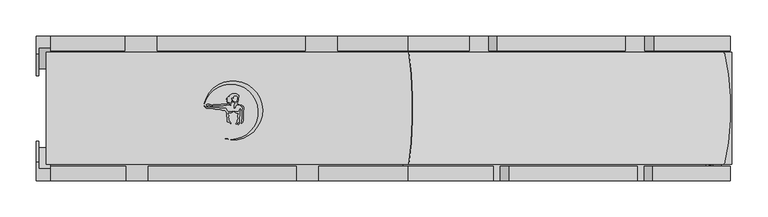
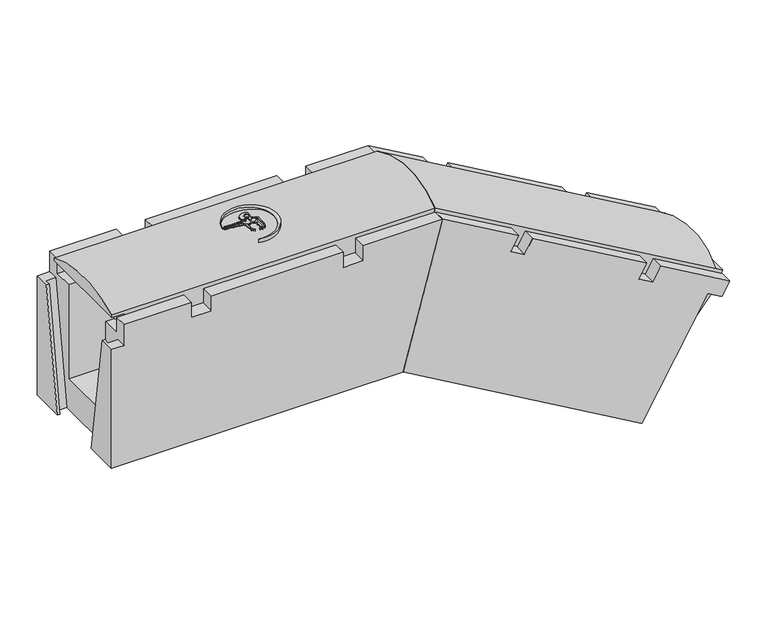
"""IFC4 building model written with IfcOpenShell, lengths in millimetres: cable carrier fitting geometry, Evotray type 1 vertical bend down : Evotray type 1 vertical bend down."""

import ifcopenshell
import ifcopenshell.guid

model = None  # the IFC model being written
_history = None  # IfcOwnerHistory: only IFC2X3 demands one
_inside = {}  # id of a spatial element -> (the spatial element, [elements in it])
_under = {}  # id of a project, library or spatial element -> (it, [spatial elements below it])
_declared = {}  # id of a project -> (the project, [libraries it declares])
_typed = {}  # id of a type object -> (the type object, [elements of that type])
_made_of = {}  # id of a material, layer set ... -> (it, [elements and type objects made of it])


def new_model(schema):
    """Start an empty IFC model of exactly this schema.

    Asked for "IFC4X3", IfcOpenShell would pick the latest addendum, in which some entities
    have other attributes; the version numbers below select the first issue.
    IFC2X3 requires an IfcOwnerHistory on every rooted entity: one is made here for all.
    """
    global model, _history
    if schema == "IFC4X3":
        model = ifcopenshell.file(schema_version=(4, 3, 0, 0))
    else:
        model = ifcopenshell.file(schema=schema)
    _inside.clear()
    _under.clear()
    _declared.clear()
    _typed.clear()
    _made_of.clear()
    _history = None
    if model.schema == "IFC2X3":
        org = make("IfcOrganization", Name="unknown")
        user = make(
            "IfcPersonAndOrganization",
            ThePerson=make("IfcPerson", FamilyName="unknown"),
            TheOrganization=org,
        )
        app = make(
            "IfcApplication",
            ApplicationDeveloper=org,
            Version="unknown",
            ApplicationFullName="unknown",
            ApplicationIdentifier="unknown",
        )
        _history = make(
            "IfcOwnerHistory",
            OwningUser=user,
            OwningApplication=app,
            ChangeAction="ADDED",
            CreationDate=0,
        )
    return model


def make(cls, **values):
    """One entity of the class cls with the attributes given. An attribute that is None is left unset."""
    return model.create_entity(
        cls, **{name: value for name, value in values.items() if value is not None}
    )


def rooted(cls, **values):
    """An entity with a GlobalId (a new one), such as an element, a storey or a relation."""
    return make(cls, GlobalId=ifcopenshell.guid.new(), OwnerHistory=_history, **values)


def si_unit(unit_type, name, prefix=None):
    """IfcSIUnit, for example si_unit("LENGTHUNIT", "METRE", prefix="MILLI")."""
    return make("IfcSIUnit", UnitType=unit_type, Prefix=prefix, Name=name)


def assignment(units):
    """IfcUnitAssignment: the units of a project."""
    return None if units is None else make("IfcUnitAssignment", Units=units)


def point(xyz):
    """IfcCartesianPoint."""
    return None if xyz is None else make("IfcCartesianPoint", Coordinates=xyz)


def direction(xyz):
    """IfcDirection."""
    return None if xyz is None else make("IfcDirection", DirectionRatios=xyz)


def frame(location, z_axis=None, x_axis=None):
    """IfcAxis2Placement3D, a coordinate frame: its origin and axes. An axis left out is left unset."""
    return make(
        "IfcAxis2Placement3D",
        Location=point(location),
        Axis=direction(z_axis),
        RefDirection=direction(x_axis),
    )


def frame_2d(location, x_axis=None):
    """IfcAxis2Placement2D, a coordinate frame in the plane: its origin and x axis."""
    return make(
        "IfcAxis2Placement2D", Location=point(location), RefDirection=direction(x_axis)
    )


def origin():
    """The frame at (0, 0, 0) with its axes left unset."""
    return frame((0.0, 0.0, 0.0))


def place(relative_to, where):
    """IfcLocalPlacement: puts the frame where relative to a parent placement (None: the world)."""
    return make(
        "IfcLocalPlacement", PlacementRelTo=relative_to, RelativePlacement=where
    )


def context(
    kind, dimensions, precision=None, world=None, true_north=None, identifier=None
):
    """IfcGeometricRepresentationContext, for example the 3D "Model" context."""
    return make(
        "IfcGeometricRepresentationContext",
        ContextIdentifier=identifier,
        ContextType=kind,
        CoordinateSpaceDimension=dimensions,
        Precision=precision,
        WorldCoordinateSystem=world,
        TrueNorth=true_north,
    )


def project(units=None, contexts=None):
    """IfcProject with its units and contexts."""
    return rooted(
        "IfcProject",
        Name="project",
        RepresentationContexts=contexts,
        UnitsInContext=assignment(units),
    )


def spatial(cls, under=None, at=None, **own):
    """A site, building, storey or space (cls), placed at a placement, below another one or the project."""
    s = rooted(cls, ObjectPlacement=at, **own)
    if under is not None:
        _under.setdefault(under.id(), (under, []))[1].append(s)
    return s


def polyline(points):
    """IfcPolyline through the points."""
    return make("IfcPolyline", Points=[point(p) for p in points])


def circle_curve(where, radius):
    """IfcCircle in the frame where."""
    return make("IfcCircle", Position=where, Radius=radius)


def ellipse_curve(where, semi_axis1, semi_axis2):
    """IfcEllipse in the frame where."""
    return make(
        "IfcEllipse", Position=where, SemiAxis1=semi_axis1, SemiAxis2=semi_axis2
    )


def trimmed(basis, trim1, trim2, sense, master):
    """IfcTrimmedCurve: the piece of a basis curve between two trims."""
    return make(
        "IfcTrimmedCurve",
        BasisCurve=basis,
        Trim1=trim1,
        Trim2=trim2,
        SenseAgreement=sense,
        MasterRepresentation=master,
    )


def segment(curve, same_sense, transition):
    """IfcCompositeCurveSegment."""
    return make(
        "IfcCompositeCurveSegment",
        Transition=transition,
        SameSense=same_sense,
        ParentCurve=curve,
    )


def composite_curve(segments, self_intersect=None):
    """IfcCompositeCurve: segments joined end to end."""
    return make("IfcCompositeCurve", Segments=segments, SelfIntersect=self_intersect)


def outline(outer, holes=None, kind="AREA"):
    """IfcArbitraryClosedProfileDef: a profile drawn as a closed curve; with holes, ...WithVoids."""
    if holes is None:
        return make("IfcArbitraryClosedProfileDef", ProfileType=kind, OuterCurve=outer)
    return make(
        "IfcArbitraryProfileDefWithVoids",
        ProfileType=kind,
        OuterCurve=outer,
        InnerCurves=holes,
    )


def extrude(swept, where, along, depth):
    """IfcExtrudedAreaSolid: the profile swept, set in the frame where, extruded along a direction by depth."""
    return make(
        "IfcExtrudedAreaSolid",
        SweptArea=swept,
        Position=where,
        ExtrudedDirection=direction(along),
        Depth=depth,
    )


def faces_of(points, faces, orient=None, outer=None):
    """IfcFace entities. A face is a list of loops; a loop is a list of indices into points, from 0.

    orient and outer hold one flag for each loop. By default every Orientation is true, the
    first loop of a face is its IfcFaceOuterBound and the others are IfcFaceBound.
    """
    made = []
    for i, loops in enumerate(faces):
        bounds = []
        for j, loop in enumerate(loops):
            is_outer = j == 0 if outer is None else outer[i][j]
            bounds.append(
                make(
                    "IfcFaceOuterBound" if is_outer else "IfcFaceBound",
                    Bound=make("IfcPolyLoop", Polygon=[points[k] for k in loop]),
                    Orientation=True if orient is None else orient[i][j],
                )
            )
        made.append(make("IfcFace", Bounds=bounds))
    return made


def faceted_brep(points, faces, orient=None, outer=None, voids=None):
    """IfcFacetedBrep: a solid bounded by flat faces; with voids (closed shells), ...WithVoids."""
    shared = [point(p) for p in points]
    hull = make("IfcClosedShell", CfsFaces=faces_of(shared, faces, orient, outer))
    if voids is None:
        return make("IfcFacetedBrep", Outer=hull)
    return make(
        "IfcFacetedBrepWithVoids",
        Outer=hull,
        Voids=[
            make(cls, CfsFaces=faces_of(shared, fs, o, b)) for cls, fs, o, b in voids
        ],
    )


def shape(context_of_items, identifier, shape_type, items):
    """IfcShapeRepresentation: the items that make up one representation, for example the "Body"."""
    return make(
        "IfcShapeRepresentation",
        ContextOfItems=context_of_items,
        RepresentationIdentifier=identifier,
        RepresentationType=shape_type,
        Items=items,
    )


def source(mapping_origin, context_of_items, identifier, shape_type, items):
    """IfcRepresentationMap: a shape defined once, which mapped items show again and again."""
    return make(
        "IfcRepresentationMap",
        MappingOrigin=mapping_origin,
        MappedRepresentation=shape(context_of_items, identifier, shape_type, items),
    )


def transform(
    local_origin,
    x_axis=None,
    y_axis=None,
    z_axis=None,
    scale=None,
    scale2=None,
    scale3=None,
    uniform=True,
):
    """IfcCartesianTransformationOperator3D, or its non-uniform kind. x_axis, y_axis, z_axis: its Axis1, 2, 3."""
    if uniform:
        return make(
            "IfcCartesianTransformationOperator3D",
            Axis1=direction(x_axis),
            Axis2=direction(y_axis),
            LocalOrigin=point(local_origin),
            Scale=scale,
            Axis3=direction(z_axis),
        )
    return make(
        "IfcCartesianTransformationOperator3DnonUniform",
        Axis1=direction(x_axis),
        Axis2=direction(y_axis),
        LocalOrigin=point(local_origin),
        Scale=scale,
        Axis3=direction(z_axis),
        Scale2=scale2,
        Scale3=scale3,
    )


def mapped(mapping_source, mapping_target):
    """IfcMappedItem: shows the shape of a source again, moved by a transform."""
    return make(
        "IfcMappedItem", MappingSource=mapping_source, MappingTarget=mapping_target
    )


def made_of(thing, what):
    """Note that an element or type object is made of a material, layer set ...; save() writes the relation."""
    if what is not None:
        _made_of.setdefault(what.id(), (what, []))[1].append(thing)
    return thing


def element(
    cls,
    number,
    at=None,
    inside=None,
    cuts=None,
    type_object=None,
    material=None,
    context=None,
    identifier="Body",
    shape_type=None,
    held_by="IfcProductDefinitionShape",
    body=None,
    shapes=None,
    **own,
):
    """One element of the class cls, such as IfcWall. Its Tag is "e" and its number.

    at: its placement. inside: the storey or other place that contains it. cuts: it is an
    opening in that element (IfcRelVoidsElement). A single representation is given by context,
    identifier, shape_type and body (its items); several are given by shapes. held_by: the class
    of the entity that holds the representations. save() writes the other relations.
    """
    e = rooted(cls, Tag="e%d" % number, ObjectPlacement=at, **own)
    if body is not None:
        shapes = [shape(context, identifier, shape_type, body)]
    if shapes is not None:
        e.Representation = make(held_by, Representations=shapes)
    if inside is not None:
        _inside.setdefault(inside.id(), (inside, []))[1].append(e)
    if cuts is not None:
        rooted(
            "IfcRelVoidsElement", RelatingBuildingElement=cuts, RelatedOpeningElement=e
        )
    if type_object is not None:
        _typed.setdefault(type_object.id(), (type_object, []))[1].append(e)
    return made_of(e, material)


def aggregate(whole, parts):
    """IfcRelAggregates: a whole, such as a stair, and the parts it consists of."""
    return rooted("IfcRelAggregates", RelatingObject=whole, RelatedObjects=parts)


def save(model, path):
    """Write the relations noted so far, then the file.

    IfcRelAggregates (storeys below a building ...), IfcRelContainedInSpatialStructure (elements
    in a storey), IfcRelDefinesByType, IfcRelAssociatesMaterial and IfcRelDeclares: one each for
    every whole, place, type object, material and project.
    """
    for whole, parts in _under.values():
        aggregate(whole, parts)
    for where, things in _inside.values():
        rooted(
            "IfcRelContainedInSpatialStructure",
            RelatedElements=things,
            RelatingStructure=where,
        )
    for kind, things in _typed.values():
        rooted("IfcRelDefinesByType", RelatedObjects=things, RelatingType=kind)
    for what, things in _made_of.values():
        rooted("IfcRelAssociatesMaterial", RelatedObjects=things, RelatingMaterial=what)
    for by, libraries in _declared.values():
        rooted("IfcRelDeclares", RelatingContext=by, RelatedDefinitions=libraries)
    model.write(path)


def plane_surface(at):
    """IfcPlane: the flat surface through the origin of the frame at, square to its z axis."""
    return make("IfcPlane", Position=at)


def cylinder_surface(at, radius):
    """IfcCylindricalSurface: all points at the distance radius from the z axis of the frame at."""
    return make("IfcCylindricalSurface", Position=at, Radius=radius)


def advanced_brep(points, edges, surfaces, faces):
    """IfcAdvancedBrep: a solid bounded by faces that lie on surfaces and meet in shared edges.

    An edge is (start, end): straight between two places in points (the first is 0);
    or (start, end, curve); or (start, end, curve, False) where it runs against its curve.
    A face is (place in surfaces, loops), or (place, loops, False) where it looks against
    its surface's normal. A loop lists edges by number (the first is 1), with a minus sign
    where the edge is run from its end to its start. The first loop is the outer one.
    """
    corners = [point(p) for p in points]
    vertices = [make("IfcVertexPoint", VertexGeometry=c) for c in corners]
    made = []
    for start, end, *more in edges:
        made.append(
            make(
                "IfcEdgeCurve",
                EdgeStart=vertices[start],
                EdgeEnd=vertices[end],
                EdgeGeometry=more[0] if more else make("IfcPolyline", Points=[corners[start], corners[end]]),
                SameSense=more[1] if len(more) > 1 else True,
            )
        )
    hull = []
    for where, loops, *sense in faces:
        bounds = []
        for j, loop in enumerate(loops):
            ring = [make("IfcOrientedEdge", EdgeElement=made[abs(k) - 1], Orientation=k > 0) for k in loop]
            bounds.append(
                make(
                    "IfcFaceOuterBound" if j == 0 else "IfcFaceBound",
                    Bound=make("IfcEdgeLoop", EdgeList=ring),
                    Orientation=True,
                )
            )
        hull.append(make("IfcAdvancedFace", Bounds=bounds, FaceSurface=surfaces[where], SameSense=sense[0] if sense else True))
    return make("IfcAdvancedBrep", Outer=make("IfcClosedShell", CfsFaces=hull))


def cable_carrier_fitting_2b2a8202(model_context):
    return source(origin(), model_context, "Body", "SolidModel", [
        extrude(outline(composite_curve([segment(polyline([(-105.1987673, 5.907559), (-103.7730763, 5.0844359), (-104.4820077, 4.6751342), (-107.0469375, 4.6751342), (-109.5064308, 2.2156409), (-109.5064308, 0.6319729), (-110.5639447, 0.3486129), (-110.8953119, 1.5852919), (-110.5730905, 2.7878385), (-110.5730905, 5.0146536), (-109.1065498, 6.4811943), (-109.5064308, 7.1738084), (-110.5730905, 7.7896447), (-111.4313624, 8.2851682), (-112.4244859, 9.2782918), (-112.4244859, 10.5283487), (-111.6366917, 10.0735155), (-110.5730905, 9.0099142), (-109.5064308, 8.394078), (-107.1936661, 8.394078), (-106.5617675, 9.0259766), (-106.5617675, 10.6343813), (-106.1559104, 11.3373462), (-105.9163405, 12.2314336), (-105.9163405, 16.3268685), (-106.5617675, 16.9722955), (-110.5730905, 17.3232408), (-111.3212546, 16.8912881), (-111.7531031, 16.1433045), (-111.9754965, 15.313321), (-112.2482129, 13.7666695), (-112.8042347, 14.3226912), (-113.3698905, 14.8883471), (-114.3304254, 14.8883471), (-114.8048648, 14.0665939), (-114.8048648, 13.2416885), (-114.4028177, 12.5453225), (-113.675123, 11.8176278), (-114.0717623, 10.3373496), (-114.4092623, 9.0777826), (-114.1064549, 7.3604762), (-114.907248, 7.2192748), (-116.6376932, 7.6829462), (-117.8844025, 8.2642963), (-118.6376597, 8.6155459), (-120.2371082, 8.33352), (-119.7695498, 9.1433549), (-118.1127288, 9.7463885)]), True, "CONTINUOUS"), segment(trimmed(circle_curve(frame_2d((-118.6788564, 9.4744491)), 0.6280537), [point((-118.1127288, 9.7463885))], [point((-118.8344386, 10.0829273))], True, "CARTESIAN"), True, "CONTINUOUS"), segment(polyline([(-118.8344386, 10.0829273), (-120.7814537, 10.0829273), (-120.2232755, 10.6411054), (-119.3724958, 10.9507639), (-118.5540563, 11.2486515)]), True, "CONTINUOUS"), segment(trimmed(circle_curve(frame_2d((-119.2923812, 11.2486515)), 0.7383249), [point((-118.5540563, 11.2486515))], [point((-119.2923812, 11.9869764))], True, "CARTESIAN"), True, "CONTINUOUS"), segment(polyline([(-119.2923812, 11.9869764), (-121.0001288, 11.9869764), (-121.3916504, 12.6651117), (-119.5730583, 12.9857785), (-118.2767203, 13.457607), (-118.897473, 14.0783597), (-120.8606925, 14.0783597), (-120.30811, 14.6309421), (-119.2782773, 15.2255163), (-118.603553, 15.9002407), (-117.8807357, 16.3175594), (-116.9057237, 16.8804829)]), True, "CONTINUOUS"), segment(trimmed(circle_curve(frame_2d((-117.1167091, 17.2459203)), 0.4219708), [point((-116.9057237, 16.8804829))], [point((-117.3276945, 17.6113577))], True, "CARTESIAN"), True, "CONTINUOUS"), segment(polyline([(-117.3276945, 17.6113577), (-116.7102978, 18.2287544), (-115.4076278, 18.7028875), (-114.4125713, 19.2773836), (-113.2810347, 19.4769041), (-113.6348604, 20.4490324), (-108.6348604, 20.4490324), (-107.6206866, 19.9761154), (-106.4988316, 19.6755153), (-105.4843855, 19.0898245), (-104.3757091, 17.9811481), (-104.3757091, 15.4151328), (-104.8646262, 14.5683035), (-104.8646262, 11.8362675), (-105.3536612, 10.7875287), (-105.760463, 10.0829273), (-105.760463, 8.2341629), (-106.5617675, 7.7715296), (-107.3950459, 7.6246001)]), True, "CONTINUOUS"), segment(trimmed(circle_curve(frame_2d((-106.3420944, 7.3424626)), 1.0900956), [point((-107.3950459, 7.6246001))], [point((-106.6242319, 6.2895111))], True, "CARTESIAN"), True, "CONTINUOUS"), segment(polyline([(-106.6242319, 6.2895111), (-105.1987673, 5.907559)]), True, "CONTINUOUS")], self_intersect=False)), frame((0.0, 0.0, 229.0645802), z_axis=(0.0, 0.0, 1.0), x_axis=(1.0, 0.0, 0.0)), (0.0, 0.0, 1.0), 22.5),
        extrude(outline(polyline([(-100.6420581, 3.0525563), (-102.5647021, 4.1625953), (-101.375462, 4.4812513), (-100.0006066, 3.9808448), (-97.8744575, 2.753312), (-97.462808, 1.2170154), (-97.462808, -1.5561738), (-97.8811889, -3.9289297), (-98.2073261, -13.2682758), (-98.2073261, -16.1231727), (-98.766974, -19.297094), (-99.9259981, -20.4561181), (-100.8234867, -20.4561181), (-100.1486125, -18.6019165), (-99.8396569, -16.8497423), (-99.3251997, -13.9321102), (-99.3251997, -2.6926455), (-98.883565, -0.1880111), (-99.4260419, 1.8365401), (-100.6420581, 3.0525563)])), frame((0.0, 0.0, 229.0645802), z_axis=(0.0, 0.0, 1.0), x_axis=(1.0, 0.0, 0.0)), (0.0, 0.0, 1.0), 22.5),
        extrude(outline(composite_curve([segment(polyline([(-108.070307, -4.5554644), (-106.0881056, -4.5554644), (-104.6198413, -4.2965698), (-103.3145593, -2.9912878), (-102.1344504, -0.4605362), (-101.6534984, -1.7819409), (-102.2762062, -3.117342), (-102.9468137, -4.5554644), (-102.9468137, -10.5136603), (-103.3751928, -12.943119), (-103.3751928, -21.4242609), (-104.8238515, -22.8729196), (-105.3965887, -22.3001824), (-104.7178687, -20.5578122), (-104.4597233, -19.0937972)]), True, "CONTINUOUS"), segment(trimmed(circle_curve(frame_2d((-104.8743713, -19.0937972)), 0.414648), [point((-104.4597233, -19.0937972))], [point((-105.2890194, -19.0937972))], True, "CARTESIAN"), True, "CONTINUOUS"), segment(polyline([(-105.2890194, -19.0937972), (-106.0547081, -19.8594859), (-107.3215546, -21.3692548), (-107.9770637, -22.0247639), (-108.7693849, -21.6552984), (-106.605165, -18.4467105), (-106.2992553, -16.7118106), (-105.4571975, -14.9060116), (-105.19999, -13.4473154), (-105.9884987, -12.0815782), (-105.9884987, -9.315031), (-104.6653502, -7.4454743)]), True, "CONTINUOUS"), segment(trimmed(circle_curve(frame_2d((-105.0024552, -7.2068937)), 0.4129897), [point((-104.6653502, -7.4454743))], [point((-105.2410358, -6.8697887))], True, "CARTESIAN"), True, "CONTINUOUS"), segment(polyline([(-105.2410358, -6.8697887), (-107.2448508, -6.516462), (-108.6887473, -5.843162), (-110.508748, -4.9944818), (-110.508748, -4.1255015), (-108.070307, -4.5554644)]), True, "CONTINUOUS")], self_intersect=False)), frame((0.0, 0.0, 229.0645802), z_axis=(0.0, 0.0, 1.0), x_axis=(1.0, 0.0, 0.0)), (0.0, 0.0, 1.0), 22.5),
        extrude(outline(composite_curve([segment(polyline([(-150.4819029, 2.2537302), (-148.7462291, 1.4443722), (-144.5597552, 1.4443722), (-143.4890341, 1.731271), (-142.1624965, 1.731271), (-140.4413877, 1.4443722), (-138.4350656, 0.9067798), (-137.2818775, 0.597784), (-131.5899708, 0.597784), (-128.9734749, 0.1616293), (-127.6459123, -0.19409), (-122.03167, -0.19409)]), True, "CONTINUOUS"), segment(trimmed(circle_curve(frame_2d((-113.1781038, 2.7115165)), 9.3181642), [point((-122.03167, -0.19409))], [point((-118.6774022, -4.8108435))], True, "CARTESIAN"), True, "CONTINUOUS"), segment(polyline([(-118.6774022, -4.8108435), (-115.6256174, -4.8108435), (-113.5910388, -4.632841), (-112.4520349, -4.1017147), (-112.7095548, -5.0627921), (-113.6536491, -5.6078652), (-114.612336, -5.9567987), (-117.847041, -5.8438403), (-119.0357356, -6.2764898), (-119.44473, -7.153581), (-119.3696494, -8.0117562), (-118.8907652, -8.8412079), (-118.1701597, -9.5618134), (-118.1701597, -11.3180259), (-118.53546, -12.3216801), (-118.3911934, -13.970655), (-117.8861011, -15.8556852), (-117.737982, -17.5486944), (-115.3666469, -20.2766033), (-115.5753239, -21.4600691), (-118.1701597, -18.8652332), (-119.1329913, -19.1232231), (-120.5361675, -18.8758053), (-120.2606072, -18.1187094), (-120.2606072, -15.8446539), (-120.0850033, -14.8487551), (-120.2606072, -12.8415943), (-120.6362696, -11.8094702), (-120.6362696, -9.9842873), (-121.0826053, -9.0271173), (-121.0826053, -6.6493678), (-121.3310455, -5.7221762), (-121.7830159, -4.9393406), (-122.2317276, -4.1621491), (-122.84617, -3.5477067), (-123.2800213, -2.6173096), (-126.8809595, -2.4915621), (-129.2251115, -2.1008055), (-131.2577048, -1.5561738), (-134.5993244, -1.2049554), (-136.6789374, -1.2049554), (-138.021172, -0.8453047), (-139.5447671, -0.4370587), (-140.8880204, 0.1893106), (-141.8824091, 0.1893106), (-144.5338495, 0.1893106), (-145.6460936, -0.1087143), (-147.5093755, 0.0871245), (-148.9984504, 0.3353447), (-150.6717579, 1.1156208), (-151.6476843, 2.0915471), (-152.2867674, 2.7306302), (-152.2867674, 3.5175099), (-150.4819029, 2.2537302)]), True, "CONTINUOUS")], self_intersect=False)), frame((0.0, 0.0, 229.0645802), z_axis=(0.0, 0.0, 1.0), x_axis=(1.0, 0.0, 0.0)), (0.0, 0.0, 1.0), 22.5),
        extrude(outline(composite_curve([segment(polyline([(-147.9796703, 3.7977023), (-146.956356, 3.2068915), (-148.6840165, 3.7265624), (-149.014163, 4.6441261), (-148.1758386, 5.4824506), (-145.30302, 5.4824506), (-144.318583, 5.0847122), (-143.2280942, 4.6441261), (-142.4299007, 4.1832889), (-141.1696706, 4.1832889), (-140.3486455, 4.4787), (-139.4633932, 4.9898007), (-133.0496883, 4.9898007), (-132.1941137, 4.6441261), (-131.1237116, 4.6441261), (-130.1629915, 4.9898007), (-128.9838348, 4.9898007), (-128.2654957, 5.4045339), (-122.8528405, 5.4045339), (-122.0925598, 5.6780888), (-120.8504018, 5.6780888), (-120.2746333, 6.2538574), (-118.3170698, 6.2538574), (-117.0290688, 5.7334711), (-116.0171524, 5.1492409), (-115.2127113, 4.8242256)]), True, "CONTINUOUS"), segment(trimmed(circle_curve(frame_2d((-115.6200436, 4.6596527)), 0.4393221), [point((-115.2127113, 4.8242256))], [point((-115.7846166, 4.2523203))], False, "CARTESIAN"), True, "CONTINUOUS"), segment(polyline([(-115.7846166, 4.2523203), (-116.8003453, 4.6627013), (-118.112003, 4.6627013), (-119.382433, 4.8867124), (-120.1944574, 4.5945398), (-121.3374314, 4.1832889), (-124.6816293, 4.1832889), (-125.4727027, 3.7265624), (-129.0400229, 3.7265624), (-129.9228853, 3.2168416), (-139.9228853, 3.2168416), (-142.5335493, 2.9884381), (-146.222077, 4.4787), (-148.3728446, 4.4787), (-147.9796703, 3.7977023)]), True, "CONTINUOUS")], self_intersect=False)), frame((0.0, 0.0, 229.0645802), z_axis=(0.0, 0.0, 1.0), x_axis=(1.0, 0.0, 0.0)), (0.0, 0.0, 1.0), 22.5),
        extrude(outline(composite_curve([segment(trimmed(circle_curve(frame_2d((-115.3994103, -4.8721323)), 38.3616107), [point((-122.8072471, -42.511701))], [point((-152.1109456, 6.2578432))], True, "CARTESIAN"), True, "CONTINUOUS"), segment(trimmed(circle_curve(frame_2d((-112.2700096, -2.9917986)), 40.900563), [point((-152.1109456, 6.2578432))], [point((-122.8072471, -42.511701))], False, "CARTESIAN"), True, "CONTINUOUS")], self_intersect=False)), frame((0.0, 0.0, 229.0645802), z_axis=(0.0, 0.0, 1.0), x_axis=(1.0, 0.0, 0.0)), (0.0, 0.0, 1.0), 22.5),
        advanced_brep(
        [(123.6743371, -77.5, 205.0), (564.1992354, -77.5, -49.3371686), (578.687207, -77.5, -24.2432656), (568.2949022, -77.5, -18.2432656), (131.4448637, -77.5, 234.0), (564.1992354, 77.5, -49.3371686), (123.6743371, 77.5, 205.0), (131.4448637, 77.5, 234.0), (568.3069305, 77.5, -18.2224319), (578.687207, 77.5, -24.2432656)],
        [
            (0, 1),
            (1, 2),
            (2, 3),
            (3, 4),
            (4, 0),
            (5, 6),
            (6, 7),
            (7, 8),
            (8, 9),
            (9, 5),
            (1, 5),
            (9, 2),
            (6, 0),
            (4, 7, ellipse_curve(frame((86.155224, 0.0, 64.9767636), z_axis=(-0.9659258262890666, 0.0, 0.25881904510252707), x_axis=(-0.2588190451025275, 0.0, -0.9659258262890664)), 192.5032084, 185.9438207)),
            (8, 3),
            (8, 3, circle_curve(frame((483.7953123, 0.0, -164.6008484), z_axis=(0.8660254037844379, 0.0, -0.5000000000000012), x_axis=(0.0, -1.0, 0.0)), 185.9438207)),
        ],
        [
            plane_surface(frame((564.1992354, -77.5, -49.3371686), z_axis=(0.0, -1.0, 0.0), x_axis=(0.5000000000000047, 0.0, 0.8660254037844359))),
            plane_surface(frame((564.1992354, 77.5, -49.3371686), z_axis=(0.0, 1.0, 0.0), x_axis=(-0.5000000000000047, 0.0, -0.8660254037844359))),
            plane_surface(frame((564.1992354, -77.5, -49.3371686), z_axis=(0.8660254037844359, 0.0, -0.5000000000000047), x_axis=(0.0, 1.0, 0.0))),
            plane_surface(frame((136.0, -77.5, 251.0), z_axis=(-0.9659258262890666, 0.0, 0.25881904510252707), x_axis=(0.0, 1.0, 0.0))),
            plane_surface(frame((123.6743371, -77.5, 205.0), z_axis=(-0.5000000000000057, 0.0, -0.8660254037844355), x_axis=(0.0, 1.0, 0.0))),
            plane_surface(frame((578.687207, -77.5, -24.2432656), z_axis=(0.5000000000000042, 0.0, 0.8660254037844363), x_axis=(-0.8660254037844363, 0.0, 0.5000000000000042))),
            plane_surface(frame((568.2949022, -77.5, -18.2432656), z_axis=(0.8660254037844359, 0.0, -0.5000000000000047), x_axis=(0.5000000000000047, 0.0, 0.8660254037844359))),
            cylinder_surface(frame((48.3255504, 0.0, 86.8177359), z_axis=(0.8660254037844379, 0.0, -0.5000000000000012), x_axis=(0.0, -1.0, 0.0)), 185.9438207),
        ],
        [
            (0, [[1, 2, 3, 4, 5]]),
            (1, [[6, 7, 8, 9, 10]]),
            (2, [[11, -10, 12, -2]]),
            (3, [[13, -5, 14, -7]]),
            (4, [[-1, -13, -6, -11]]),
            (5, [[15, -3, -12, -9]]),
            (6, [[-15, 16]]),
            (7, [[-4, -16, -8, -14]]),
        ],
    ),
        advanced_brep(
        [(-351.0, -77.5, 205.0), (123.6743371, -77.5, 205.0), (131.4448637, -77.5, 234.0), (-371.0, -77.5, 234.0), (-371.0, -77.5, 230.0), (-351.0, -77.5, 230.0), (123.6743371, 77.5, 205.0), (-351.0, 77.5, 205.0), (-351.0, 77.5, 230.0), (-371.0, 77.5, 230.0), (-371.0, 77.5, 234.0), (131.4448637, 77.5, 234.0)],
        [
            (0, 1),
            (1, 2),
            (2, 3),
            (3, 4),
            (4, 5),
            (5, 0),
            (6, 7),
            (7, 8),
            (8, 9),
            (9, 10),
            (10, 11),
            (11, 6),
            (9, 4),
            (3, 10, circle_curve(frame((-371.0, 0.0, 64.9767636), z_axis=(-1.0, 0.0, 0.0), x_axis=(0.0, -1.0, 0.0)), 185.9438207)),
            (6, 1),
            (0, 7),
            (11, 2, ellipse_curve(frame((86.155224, 0.0, 64.9767636), z_axis=(0.965925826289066, 0.0, -0.25881904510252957), x_axis=(0.2588190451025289, 0.0, 0.9659258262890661)), 192.5032084, 185.9438207)),
            (8, 5),
        ],
        [
            plane_surface(frame((-371.0, -77.5, 205.0), z_axis=(0.0, -1.0, 0.0), x_axis=(0.0, 0.0, -1.0))),
            plane_surface(frame((-371.0, 77.5, 205.0), z_axis=(0.0, 1.0, 0.0), x_axis=(0.0, 0.0, 1.0))),
            plane_surface(frame((-371.0, -77.5, 251.0), z_axis=(-1.0, 0.0, 0.0), x_axis=(0.0, 1.0, 0.0))),
            plane_surface(frame((-371.0, -77.5, 205.0), z_axis=(0.0, 0.0, -1.0), x_axis=(0.0, 1.0, 0.0))),
            plane_surface(frame((123.6743371, -77.5, 205.0), z_axis=(0.965925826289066, 0.0, -0.25881904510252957), x_axis=(0.0, 1.0, 0.0))),
            plane_surface(frame((-371.0, 77.5, 230.0), z_axis=(0.0, 0.0, -1.0), x_axis=(-1.0, 0.0, 0.0))),
            plane_surface(frame((-351.0, -77.5, 230.0), z_axis=(-1.0, 0.0, 0.0), x_axis=(0.0, 0.0, -1.0))),
            cylinder_surface(frame((-371.0, 0.0, 64.9767636), z_axis=(1.0, 0.0, 0.0), x_axis=(0.0, -1.0, 0.0)), 185.9438207),
        ],
        [
            (0, [[1, 2, 3, 4, 5, 6]]),
            (1, [[7, 8, 9, 10, 11, 12]]),
            (2, [[13, -4, 14, -10]]),
            (3, [[15, -1, 16, -7]]),
            (4, [[-15, -12, 17, -2]]),
            (5, [[18, -5, -13, -9]]),
            (6, [[-18, -8, -16, -6]]),
            (7, [[-3, -17, -11, -14]]),
        ],
    ),
        faceted_brep([(130.373067, -100.0, 230.0), (68.7447527, -100.0, 0.0), (440.0486003, -100.0, -214.3723763), (542.5486003, -100.0, -36.8371686), (564.1992354, -100.0, -49.3371686), (576.6992354, -100.0, -27.6865335), (469.3120853, -100.0, 34.3134665), (456.8120853, -100.0, 12.6628314), (435.1614502, -100.0, 25.1628314), (447.6614502, -100.0, 46.8134665), (270.1262424, -100.0, 149.3134665), (257.6262424, -100.0, 127.6628314), (235.9756073, -100.0, 140.1628314), (248.4756073, -100.0, 161.8134665), (68.7447527, 100.0, 0.0), (130.373067, 100.0, 230.0), (214.7006166, 100.0, 181.3134665), (202.2006166, 100.0, 159.6628314), (241.1717598, 100.0, 137.1628314), (253.6717598, 100.0, 158.8134665), (431.2069675, 100.0, 56.3134665), (418.7069675, 100.0, 34.6628314), (457.6781107, 100.0, 12.1628314), (470.1781107, 100.0, 33.8134665), (576.6992354, 100.0, -27.6865335), (564.1992354, 100.0, -49.3371686), (542.5486003, 100.0, -36.8371686), (440.0486003, 100.0, -214.3723763), (564.1992354, -50.0, -49.3371686), (564.1992354, -80.0, -49.3371686), (461.6992354, -45.4, -226.8723763), (461.6992354, 45.4, -226.8723763), (564.1992354, 80.0, -49.3371686), (564.1992354, 50.0, -49.3371686), (486.6992354, 50.0, -183.5711062), (486.6992354, -50.0, -183.5711062), (576.6992354, -80.0, -27.6865335), (576.6992354, 80.0, -27.6865335), (447.6614502, -80.0, 46.8134665), (270.1262424, -80.0, 149.3134665), (253.6717598, 80.0, 158.8134665), (431.2069675, 80.0, 56.3134665), (469.3120853, -80.0, 34.3134665), (470.1781107, 80.0, 33.8134665), (130.373067, -80.0, 230.0), (248.4756073, -80.0, 161.8134665), (130.373067, 80.0, 230.0), (214.7006166, 80.0, 181.3134665), (123.6743371, -80.0, 205.0), (123.6743371, -50.0, 205.0), (82.1422123, -50.0, 50.0), (82.1422123, 50.0, 50.0), (123.6743371, 50.0, 205.0), (123.6743371, 80.0, 205.0), (440.0486003, 43.0, -214.3723763), (450.4409051, 43.0, -220.3723763), (450.4409051, 45.4, -220.3723763), (450.4409051, -45.4, -220.3723763), (450.4409051, -43.0, -220.3723763), (440.0486003, -43.0, -214.3723763), (552.9409051, -80.0, -42.8371686), (542.5486003, -80.0, -36.8371686), (456.8120853, -80.0, 12.6628314), (435.1614502, -80.0, 25.1628314), (257.6262424, -80.0, 127.6628314), (235.9756073, -80.0, 140.1628314), (457.6781107, 80.0, 12.1628314), (542.5486003, 80.0, -36.8371686), (552.9409051, 80.0, -42.8371686), (241.1717598, 80.0, 137.1628314), (418.7069675, 80.0, 34.6628314), (202.2006166, 80.0, 159.6628314), (542.5486003, -77.6, -36.8371686), (552.9409051, -77.6, -42.8371686), (552.9409051, 77.6, -42.8371686), (542.5486003, 77.6, -36.8371686)], [[[0, 1, 2, 3, 4, 5, 6, 7, 8, 9, 10, 11, 12, 13]], [[14, 15, 16, 17, 18, 19, 20, 21, 22, 23, 24, 25, 26, 27]], [[28, 29, 30, 31, 32, 33, 34, 35]], [[36, 5, 4, 29]], [[24, 37, 32, 25]], [[10, 9, 38, 39]], [[20, 19, 40, 41]], [[5, 36, 42, 6]], [[37, 24, 23, 43]], [[44, 0, 13, 45]], [[15, 46, 47, 16]], [[1, 0, 44, 48, 49, 50, 51, 52, 53, 46, 15, 14]], [[1, 14, 27, 54, 55, 56, 31, 30, 57, 58, 59, 2]], [[36, 29, 60, 61, 62, 42]], [[39, 38, 63, 64]], [[48, 44, 45, 65]], [[32, 37, 43, 66, 67, 68]], [[41, 40, 69, 70]], [[46, 53, 71, 47]], [[49, 48, 65, 12, 11, 64, 63, 8, 7, 62, 61, 72, 73, 60, 29, 28]], [[53, 52, 33, 32, 68, 74, 75, 67, 66, 22, 21, 70, 69, 18, 17, 71]], [[35, 50, 49, 28]], [[51, 34, 33, 52]], [[50, 35, 34, 51]], [[60, 29, 4, 3, 61]], [[29, 60, 57, 30]], [[32, 68, 67, 26, 25]], [[68, 32, 31, 56]], [[58, 73, 72, 59]], [[59, 72, 61, 3, 2]], [[73, 58, 57, 60]], [[54, 75, 74, 55]], [[75, 54, 27, 26, 67]], [[55, 74, 68, 56]], [[70, 21, 20, 41]], [[22, 66, 43, 23]], [[62, 7, 6, 42]], [[8, 63, 38, 9]], [[71, 17, 16, 47]], [[18, 69, 40, 19]], [[64, 11, 10, 39]], [[12, 65, 45, 13]]]),
        faceted_brep([(-385.0, -100.0, 0.0), (68.7447527, -100.0, 0.0), (130.373067, -100.0, 230.0), (6.6963481, -100.0, 230.0), (6.6963481, -100.0, 205.0), (-24.6518259, -100.0, 205.0), (-24.6518259, -100.0, 230.0), (-229.6518259, -100.0, 230.0), (-229.6518259, -100.0, 205.0), (-261.0, -100.0, 205.0), (-261.0, -100.0, 230.0), (-365.0130369, -100.0, 230.0), (-365.0130369, -100.0, 196.0), (-385.0, -100.0, 196.0), (130.373067, 100.0, 230.0), (68.7447527, 100.0, 0.0), (-385.0, 100.0, 0.0), (-385.0, 100.0, 196.0), (-365.0130369, 100.0, 196.0), (-365.0130369, 100.0, 230.0), (-262.0, 100.0, 230.0), (-262.0, 100.0, 205.0), (-217.0, 100.0, 205.0), (-217.0, 100.0, 230.0), (-12.0, 100.0, 230.0), (-12.0, 100.0, 205.0), (33.0, 100.0, 205.0), (33.0, 100.0, 230.0), (-24.6518259, -80.0, 230.0), (-229.6518259, -80.0, 230.0), (-217.0, 80.0, 230.0), (-12.0, 80.0, 230.0), (130.373067, -80.0, 230.0), (6.6963481, -80.0, 230.0), (130.373067, 80.0, 230.0), (33.0, 80.0, 230.0), (-365.0130369, -80.0, 230.0), (-261.0, -80.0, 230.0), (-365.0130369, 80.0, 230.0), (-262.0, 80.0, 230.0), (-385.0, -45.45, 0.0), (-385.0, -74.8926087, 196.0), (-385.0, 45.45, 0.0), (-385.0, 74.8926087, 196.0), (-381.0, -45.45, 0.0), (-381.0, -54.6, 0.0), (-365.0, -54.6, 0.0), (-365.0, 54.6, 0.0), (-381.0, 54.6, 0.0), (-381.0, 45.45, 0.0), (123.6743371, 80.0, 205.0), (123.6743371, 50.0, 205.0), (82.1422123, 50.0, 50.0), (82.1422123, -50.0, 50.0), (123.6743371, -50.0, 205.0), (123.6743371, -80.0, 205.0), (-381.0, 74.8926087, 196.0), (-381.0, -74.8926087, 196.0), (-365.0, 84.0426087, 196.0), (-381.0, 84.0426087, 196.0), (-381.0, -84.0426087, 196.0), (-365.0, -84.0426087, 196.0), (-365.0, -80.0, 205.0), (-365.0, -77.5, 205.0), (-365.0, -50.0, 205.0), (-365.0, -50.0, 50.0), (-365.0, 50.0, 50.0), (-365.0, 50.0, 205.0), (-365.0, 77.5, 205.0), (-365.0, 80.0, 205.0), (-24.6518259, -80.0, 205.0), (-229.6518259, -80.0, 205.0), (6.6963481, -80.0, 205.0), (-261.0, -80.0, 205.0), (-217.0, 80.0, 205.0), (-12.0, 80.0, 205.0), (33.0, 80.0, 205.0), (-262.0, 80.0, 205.0), (-351.0, 50.0, 205.0), (-351.0, -50.0, 205.0)], [[[0, 1, 2, 3, 4, 5, 6, 7, 8, 9, 10, 11, 12, 13]], [[14, 15, 16, 17, 18, 19, 20, 21, 22, 23, 24, 25, 26, 27]], [[7, 6, 28, 29]], [[24, 23, 30, 31]], [[2, 32, 33, 3]], [[34, 14, 27, 35]], [[36, 11, 10, 37]], [[19, 38, 39, 20]], [[40, 0, 13, 41]], [[16, 42, 43, 17]], [[1, 0, 40, 44, 45, 46, 47, 48, 49, 42, 16, 15]], [[2, 1, 15, 14, 34, 50, 51, 52, 53, 54, 55, 32]], [[42, 49, 56, 43]], [[44, 40, 41, 57]], [[48, 47, 58, 59]], [[45, 44, 57, 60]], [[49, 48, 59, 56]], [[46, 45, 60, 61]], [[47, 46, 61, 12, 11, 36, 62, 63, 64, 65, 66, 67, 68, 69, 38, 19, 18, 58]], [[12, 61, 60, 57, 41, 13]], [[58, 18, 17, 43, 56, 59]], [[29, 28, 70, 71]], [[32, 55, 72, 33]], [[62, 36, 37, 73]], [[31, 30, 74, 75]], [[50, 34, 35, 76]], [[38, 69, 77, 39]], [[51, 50, 76, 26, 25, 75, 74, 22, 21, 77, 69, 68, 67, 78]], [[55, 54, 79, 64, 63, 62, 73, 9, 8, 71, 70, 5, 4, 72]], [[53, 65, 64, 79, 54]], [[66, 52, 51, 78, 67]], [[65, 53, 52, 66]], [[77, 21, 20, 39]], [[22, 74, 30, 23]], [[9, 73, 37, 10]], [[71, 8, 7, 29]], [[75, 25, 24, 31]], [[26, 76, 35, 27]], [[5, 70, 28, 6]], [[72, 4, 3, 33]]]),
    ])


if __name__ == "__main__":
    model = new_model("IFC4")
    model_context = context("Model", 3, world=origin())
    ifc_project = project(units=[si_unit("LENGTHUNIT", "METRE", prefix="MILLI")], contexts=[model_context])
    site = spatial("IfcSite", under=ifc_project)
    building = spatial("IfcBuilding", under=site)
    placement = place(None, origin())
    cable_carrier_fitting_shape = cable_carrier_fitting_2b2a8202(model_context)
    element("IfcCableCarrierFitting", 1, ObjectType="Evotray type 1 vertical bend down : Evotray type 1 vertical bend down", at=placement, inside=building, context=model_context, shape_type="MappedRepresentation", body=[
        mapped(cable_carrier_fitting_shape, transform((0.0, 0.0, 0.0), x_axis=(1.0, 0.0, 0.0), y_axis=(0.0, 1.0, 0.0), z_axis=(0.0, 0.0, 1.0))),
    ])
    save(model, "model.ifc")
